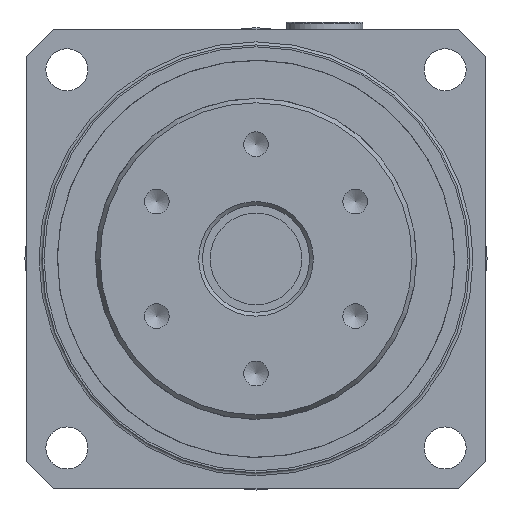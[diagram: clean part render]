
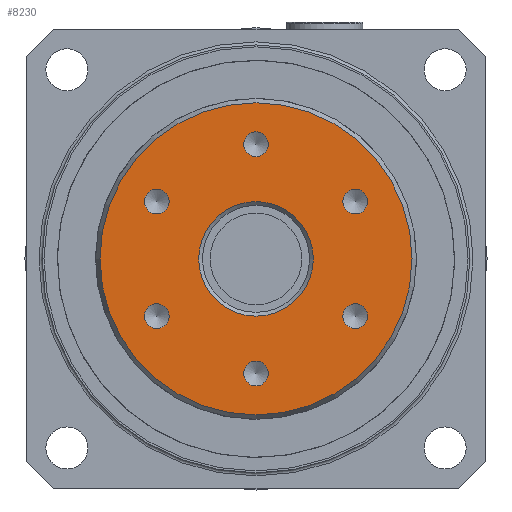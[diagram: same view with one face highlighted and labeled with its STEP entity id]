
A CAD part, left-side view. The second image highlights one B-rep face of the part: STEP entity #8230.
In plain terms, the highlighted planar face has unit normal (-1, 0, 0).
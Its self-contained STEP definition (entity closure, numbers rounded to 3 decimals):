
#750=FACE_BOUND('',#2234,.T.);
#751=FACE_BOUND('',#2235,.T.);
#752=FACE_BOUND('',#2236,.T.);
#753=FACE_BOUND('',#2237,.T.);
#754=FACE_BOUND('',#2238,.T.);
#755=FACE_BOUND('',#2239,.T.);
#756=FACE_BOUND('',#2240,.T.);
#1567=PLANE('',#9231);
#1740=FACE_OUTER_BOUND('',#2233,.T.);
#2233=EDGE_LOOP('',(#6076));
#2234=EDGE_LOOP('',(#6077,#6078));
#2235=EDGE_LOOP('',(#6079,#6080));
#2236=EDGE_LOOP('',(#6081,#6082));
#2237=EDGE_LOOP('',(#6083,#6084));
#2238=EDGE_LOOP('',(#6085,#6086));
#2239=EDGE_LOOP('',(#6087,#6088));
#2240=EDGE_LOOP('',(#6089));
#2866=CIRCLE('',#9228,7.5);
#2869=CIRCLE('',#9232,20.423);
#2870=CIRCLE('',#9233,1.621);
#2871=CIRCLE('',#9234,1.621);
#2872=CIRCLE('',#9235,1.621);
#2873=CIRCLE('',#9236,1.621);
#2874=CIRCLE('',#9237,1.621);
#2875=CIRCLE('',#9238,1.621);
#2876=CIRCLE('',#9239,1.621);
#2877=CIRCLE('',#9240,1.621);
#2878=CIRCLE('',#9241,1.621);
#2879=CIRCLE('',#9242,1.621);
#2880=CIRCLE('',#9243,1.621);
#2881=CIRCLE('',#9244,1.621);
#3713=VERTEX_POINT('',#13748);
#3716=VERTEX_POINT('',#13756);
#3717=VERTEX_POINT('',#13758);
#3718=VERTEX_POINT('',#13759);
#3719=VERTEX_POINT('',#13762);
#3720=VERTEX_POINT('',#13763);
#3721=VERTEX_POINT('',#13766);
#3722=VERTEX_POINT('',#13767);
#3723=VERTEX_POINT('',#13770);
#3724=VERTEX_POINT('',#13771);
#3725=VERTEX_POINT('',#13774);
#3726=VERTEX_POINT('',#13775);
#3727=VERTEX_POINT('',#13778);
#3728=VERTEX_POINT('',#13779);
#4718=EDGE_CURVE('',#3713,#3713,#2866,.T.);
#4722=EDGE_CURVE('',#3716,#3716,#2869,.T.);
#4723=EDGE_CURVE('',#3717,#3718,#2870,.T.);
#4724=EDGE_CURVE('',#3718,#3717,#2871,.T.);
#4725=EDGE_CURVE('',#3719,#3720,#2872,.T.);
#4726=EDGE_CURVE('',#3720,#3719,#2873,.T.);
#4727=EDGE_CURVE('',#3721,#3722,#2874,.T.);
#4728=EDGE_CURVE('',#3722,#3721,#2875,.T.);
#4729=EDGE_CURVE('',#3723,#3724,#2876,.T.);
#4730=EDGE_CURVE('',#3724,#3723,#2877,.T.);
#4731=EDGE_CURVE('',#3725,#3726,#2878,.T.);
#4732=EDGE_CURVE('',#3726,#3725,#2879,.T.);
#4733=EDGE_CURVE('',#3727,#3728,#2880,.T.);
#4734=EDGE_CURVE('',#3728,#3727,#2881,.T.);
#6076=ORIENTED_EDGE('',*,*,#4722,.F.);
#6077=ORIENTED_EDGE('',*,*,#4723,.T.);
#6078=ORIENTED_EDGE('',*,*,#4724,.T.);
#6079=ORIENTED_EDGE('',*,*,#4725,.T.);
#6080=ORIENTED_EDGE('',*,*,#4726,.T.);
#6081=ORIENTED_EDGE('',*,*,#4727,.T.);
#6082=ORIENTED_EDGE('',*,*,#4728,.T.);
#6083=ORIENTED_EDGE('',*,*,#4729,.T.);
#6084=ORIENTED_EDGE('',*,*,#4730,.T.);
#6085=ORIENTED_EDGE('',*,*,#4731,.T.);
#6086=ORIENTED_EDGE('',*,*,#4732,.T.);
#6087=ORIENTED_EDGE('',*,*,#4733,.T.);
#6088=ORIENTED_EDGE('',*,*,#4734,.T.);
#6089=ORIENTED_EDGE('',*,*,#4718,.F.);
#8230=ADVANCED_FACE('',(#1740,#750,#751,#752,#753,#754,#755,#756),#1567,
 .T.);
#9228=AXIS2_PLACEMENT_3D('',#13749,#10740,#10741);
#9231=AXIS2_PLACEMENT_3D('',#13755,#10747,#10748);
#9232=AXIS2_PLACEMENT_3D('',#13757,#10749,#10750);
#9233=AXIS2_PLACEMENT_3D('',#13760,#10751,#10752);
#9234=AXIS2_PLACEMENT_3D('',#13761,#10753,#10754);
#9235=AXIS2_PLACEMENT_3D('',#13764,#10755,#10756);
#9236=AXIS2_PLACEMENT_3D('',#13765,#10757,#10758);
#9237=AXIS2_PLACEMENT_3D('',#13768,#10759,#10760);
#9238=AXIS2_PLACEMENT_3D('',#13769,#10761,#10762);
#9239=AXIS2_PLACEMENT_3D('',#13772,#10763,#10764);
#9240=AXIS2_PLACEMENT_3D('',#13773,#10765,#10766);
#9241=AXIS2_PLACEMENT_3D('',#13776,#10767,#10768);
#9242=AXIS2_PLACEMENT_3D('',#13777,#10769,#10770);
#9243=AXIS2_PLACEMENT_3D('',#13780,#10771,#10772);
#9244=AXIS2_PLACEMENT_3D('',#13781,#10773,#10774);
#10740=DIRECTION('center_axis',(-1.,0.,0.));
#10741=DIRECTION('ref_axis',(0.,-1.,0.));
#10747=DIRECTION('center_axis',(-1.,0.,0.));
#10748=DIRECTION('ref_axis',(0.,0.,1.));
#10749=DIRECTION('center_axis',(1.,0.,0.));
#10750=DIRECTION('ref_axis',(0.,-1.,0.));
#10751=DIRECTION('center_axis',(1.,0.,0.));
#10752=DIRECTION('ref_axis',(0.,0.,1.));
#10753=DIRECTION('center_axis',(1.,0.,0.));
#10754=DIRECTION('ref_axis',(0.,0.,1.));
#10755=DIRECTION('center_axis',(1.,0.,0.));
#10756=DIRECTION('ref_axis',(0.,-0.866,0.5));
#10757=DIRECTION('center_axis',(1.,0.,0.));
#10758=DIRECTION('ref_axis',(0.,-0.866,0.5));
#10759=DIRECTION('center_axis',(1.,0.,0.));
#10760=DIRECTION('ref_axis',(0.,-0.866,-0.5));
#10761=DIRECTION('center_axis',(1.,0.,0.));
#10762=DIRECTION('ref_axis',(0.,-0.866,-0.5));
#10763=DIRECTION('center_axis',(1.,0.,0.));
#10764=DIRECTION('ref_axis',(0.,0.,-1.));
#10765=DIRECTION('center_axis',(1.,0.,0.));
#10766=DIRECTION('ref_axis',(0.,0.,-1.));
#10767=DIRECTION('center_axis',(1.,0.,0.));
#10768=DIRECTION('ref_axis',(0.,0.866,-0.5));
#10769=DIRECTION('center_axis',(1.,0.,0.));
#10770=DIRECTION('ref_axis',(0.,0.866,-0.5));
#10771=DIRECTION('center_axis',(1.,0.,0.));
#10772=DIRECTION('ref_axis',(0.,0.866,0.5));
#10773=DIRECTION('center_axis',(1.,0.,0.));
#10774=DIRECTION('ref_axis',(0.,0.866,0.5));
#13748=CARTESIAN_POINT('',(0.,7.5,0.));
#13749=CARTESIAN_POINT('Origin',(0.,0.,0.));
#13755=CARTESIAN_POINT('Origin',(0.,21.,0.));
#13756=CARTESIAN_POINT('',(0.,20.423,0.));
#13757=CARTESIAN_POINT('Origin',(0.,0.,0.));
#13758=CARTESIAN_POINT('',(0.,0.,-13.379));
#13759=CARTESIAN_POINT('',(0.,0.,-16.621));
#13760=CARTESIAN_POINT('Origin',(0.,0.,-15.));
#13761=CARTESIAN_POINT('Origin',(0.,0.,-15.));
#13762=CARTESIAN_POINT('',(0.,11.587,-6.69));
#13763=CARTESIAN_POINT('',(0.,14.394,-8.311));
#13764=CARTESIAN_POINT('Origin',(0.,12.99,-7.5));
#13765=CARTESIAN_POINT('Origin',(0.,12.99,-7.5));
#13766=CARTESIAN_POINT('',(0.,11.587,6.69));
#13767=CARTESIAN_POINT('',(0.,14.394,8.311));
#13768=CARTESIAN_POINT('Origin',(0.,12.99,7.5));
#13769=CARTESIAN_POINT('Origin',(0.,12.99,7.5));
#13770=CARTESIAN_POINT('',(0.,0.,13.379));
#13771=CARTESIAN_POINT('',(0.,0.,16.621));
#13772=CARTESIAN_POINT('Origin',(0.,0.,15.));
#13773=CARTESIAN_POINT('Origin',(0.,0.,15.));
#13774=CARTESIAN_POINT('',(0.,-11.587,6.69));
#13775=CARTESIAN_POINT('',(0.,-14.394,8.311));
#13776=CARTESIAN_POINT('Origin',(0.,-12.99,7.5));
#13777=CARTESIAN_POINT('Origin',(0.,-12.99,7.5));
#13778=CARTESIAN_POINT('',(0.,-11.587,-6.689));
#13779=CARTESIAN_POINT('',(0.,-14.394,-8.31));
#13780=CARTESIAN_POINT('Origin',(0.,-12.99,-7.5));
#13781=CARTESIAN_POINT('Origin',(0.,-12.99,-7.5));
